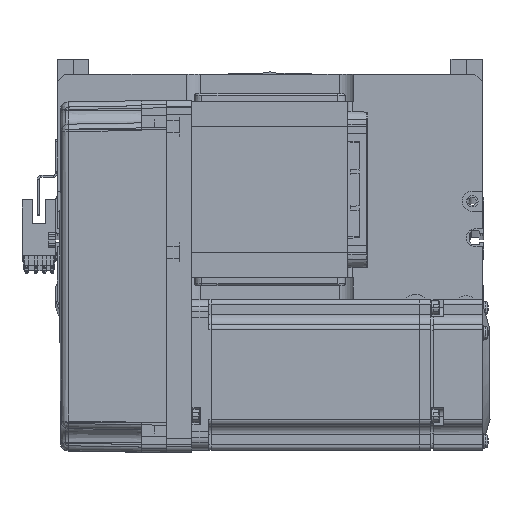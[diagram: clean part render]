
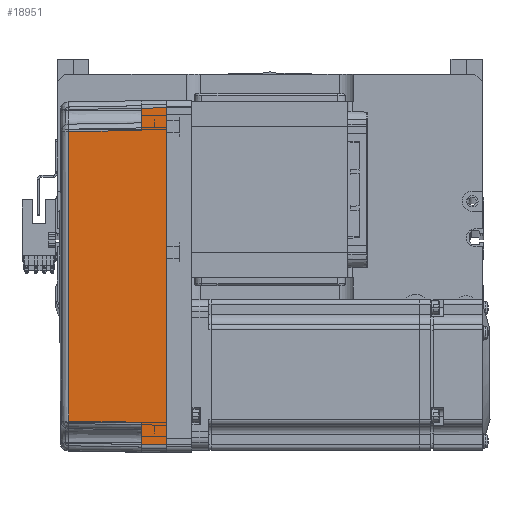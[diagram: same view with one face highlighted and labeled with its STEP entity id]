
A CAD part, top view. The second image highlights one B-rep face of the part: STEP entity #18951.
In plain terms, the highlighted planar face has unit normal (-0.018, 0, 1) as drawn and (0, -1, 0.017) by its records, which use the part's own axes.
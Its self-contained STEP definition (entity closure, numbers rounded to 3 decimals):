
#524 = EDGE_CURVE ( 'NONE', #40031, #46007, #53128, .T. ) ;
#654 = CARTESIAN_POINT ( 'NONE',  ( -57.495, -35.32, 38.985 ) ) ;
#704 = VERTEX_POINT ( 'NONE', #35008 ) ;
#1525 = CARTESIAN_POINT ( 'NONE',  ( -57.495, -35.32, 38.985 ) ) ;
#2412 = LINE ( 'NONE', #11874, #53089 ) ;
#4189 = EDGE_CURVE ( 'NONE', #58061, #40031, #18517, .T. ) ;
#6783 = VERTEX_POINT ( 'NONE', #15172 ) ;
#7096 = VECTOR ( 'NONE', #15717, 1000. ) ;
#7209 = PLANE ( 'NONE',  #8399 ) ;
#8399 = AXIS2_PLACEMENT_3D ( 'NONE', #42081, #27442, #36848 ) ;
#9427 = ORIENTED_EDGE ( 'NONE', *, *, #56923, .T. ) ;
#9564 = DIRECTION ( 'NONE',  ( 0.017, 0.017, 1. ) ) ;
#11144 = DIRECTION ( 'NONE',  ( -1., 0., 0. ) ) ;
#11758 = CARTESIAN_POINT ( 'NONE',  ( 70., -35.825, 10. ) ) ;
#11874 = CARTESIAN_POINT ( 'NONE',  ( 58., -35.825, 10. ) ) ;
#13261 = CARTESIAN_POINT ( 'NONE',  ( 57.495, -35.32, 38.985 ) ) ;
#13538 = VERTEX_POINT ( 'NONE', #22476 ) ;
#15172 = CARTESIAN_POINT ( 'NONE',  ( 58., -35.825, 10. ) ) ;
#15245 = LINE ( 'NONE', #52121, #58911 ) ;
#15339 = EDGE_CURVE ( 'NONE', #58061, #13538, #15245, .T. ) ;
#15717 = DIRECTION ( 'NONE',  ( -0.017, -0.017, -1. ) ) ;
#16797 = DIRECTION ( 'NONE',  ( -0.017, 0.017, 1. ) ) ;
#18158 = DIRECTION ( 'NONE',  ( -1., 0., 0. ) ) ;
#18517 = LINE ( 'NONE', #58073, #52913 ) ;
#18951 = ADVANCED_FACE ( 'NONE', ( #20214 ), #7209, .T. ) ;
#19628 = ORIENTED_EDGE ( 'NONE', *, *, #524, .F. ) ;
#20214 = FACE_OUTER_BOUND ( 'NONE', #35073, .T. ) ;
#22004 = CARTESIAN_POINT ( 'NONE',  ( -67., -36., 0. ) ) ;
#22476 = CARTESIAN_POINT ( 'NONE',  ( 66.826, -35.825, 10. ) ) ;
#23568 = VECTOR ( 'NONE', #11144, 1000. ) ;
#24227 = ORIENTED_EDGE ( 'NONE', *, *, #59112, .T. ) ;
#24582 = ORIENTED_EDGE ( 'NONE', *, *, #26585, .T. ) ;
#25392 = CARTESIAN_POINT ( 'NONE',  ( 67., -36., 0. ) ) ;
#26585 = EDGE_CURVE ( 'NONE', #6783, #704, #2412, .T. ) ;
#27387 = CARTESIAN_POINT ( 'NONE',  ( -57.495, -35.32, 38.985 ) ) ;
#27442 = DIRECTION ( 'NONE',  ( 0., -1., 0.017 ) ) ;
#27808 = CARTESIAN_POINT ( 'NONE',  ( 19.165, -35.316, 39.181 ) ) ;
#32411 = CARTESIAN_POINT ( 'NONE',  ( -19.165, -35.316, 39.181 ) ) ;
#33826 = LINE ( 'NONE', #11758, #34595 ) ;
#33873 = CARTESIAN_POINT ( 'NONE',  ( -66.826, -35.825, 10. ) ) ;
#34595 = VECTOR ( 'NONE', #56619, 1000. ) ;
#35008 = CARTESIAN_POINT ( 'NONE',  ( 57.495, -35.32, 38.985 ) ) ;
#35073 = EDGE_LOOP ( 'NONE', ( #56480, #24227, #24582, #36575, #9427, #45819, #19628, #61550 ) ) ;
#36575 = ORIENTED_EDGE ( 'NONE', *, *, #39125, .T. ) ;
#36830 = LINE ( 'NONE', #60130, #23568 ) ;
#36848 = DIRECTION ( 'NONE',  ( 0., -0.017, -1. ) ) ;
#39125 = EDGE_CURVE ( 'NONE', #704, #44038, #44892, .T. ) ;
#40031 = VERTEX_POINT ( 'NONE', #22004 ) ;
#42081 = CARTESIAN_POINT ( 'NONE',  ( 70., -36., 0. ) ) ;
#43920 = VERTEX_POINT ( 'NONE', #54555 ) ;
#44038 = VERTEX_POINT ( 'NONE', #1525 ) ;
#44602 = CARTESIAN_POINT ( 'NONE',  ( -66.959, -35.958, 2.39 ) ) ;
#44892 = B_SPLINE_CURVE_WITH_KNOTS ( 'NONE', 3,
 ( #13261, #27808, #32411, #27387 ),
 .UNSPECIFIED., .F., .F.,
 ( 4, 4 ),
 ( 0., 1. ),
 .UNSPECIFIED. ) ;
#45370 = LINE ( 'NONE', #654, #7096 ) ;
#45819 = ORIENTED_EDGE ( 'NONE', *, *, #52023, .T. ) ;
#46007 = VERTEX_POINT ( 'NONE', #33873 ) ;
#47664 = VECTOR ( 'NONE', #9564, 1000. ) ;
#51300 = DIRECTION ( 'NONE',  ( -0.017, 0.017, 1. ) ) ;
#52023 = EDGE_CURVE ( 'NONE', #43920, #46007, #36830, .T. ) ;
#52121 = CARTESIAN_POINT ( 'NONE',  ( 67., -36., 0. ) ) ;
#52913 = VECTOR ( 'NONE', #18158, 1000. ) ;
#53089 = VECTOR ( 'NONE', #51300, 1000. ) ;
#53128 = LINE ( 'NONE', #44602, #47664 ) ;
#54555 = CARTESIAN_POINT ( 'NONE',  ( -58., -35.825, 10. ) ) ;
#56480 = ORIENTED_EDGE ( 'NONE', *, *, #15339, .T. ) ;
#56619 = DIRECTION ( 'NONE',  ( -1., 0., 0. ) ) ;
#56923 = EDGE_CURVE ( 'NONE', #44038, #43920, #45370, .T. ) ;
#58061 = VERTEX_POINT ( 'NONE', #25392 ) ;
#58073 = CARTESIAN_POINT ( 'NONE',  ( 0., -36., 0. ) ) ;
#58911 = VECTOR ( 'NONE', #16797, 1000. ) ;
#59112 = EDGE_CURVE ( 'NONE', #13538, #6783, #33826, .T. ) ;
#60130 = CARTESIAN_POINT ( 'NONE',  ( 70., -35.825, 10. ) ) ;
#61550 = ORIENTED_EDGE ( 'NONE', *, *, #4189, .F. ) ;
